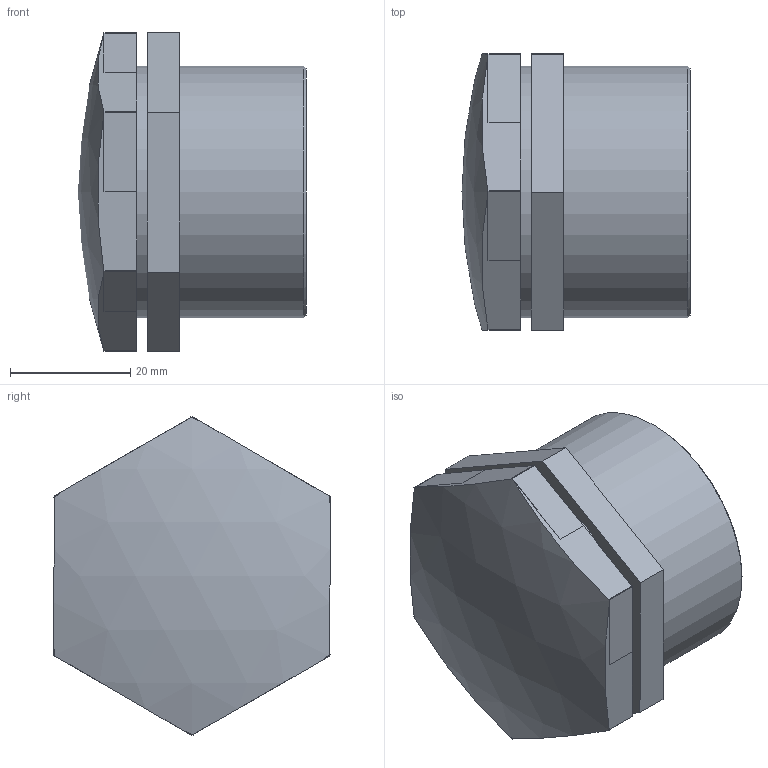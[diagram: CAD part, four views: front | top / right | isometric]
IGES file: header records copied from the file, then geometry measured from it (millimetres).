
Global section: file name: 051707013_0517070130A.ipt; native system: Autodesk Inventor 2015; preprocessor: unknown; author: Кирилл,,11,0; organization: 20170503.073136; date: 20170618.093337; units: millimetre
Bounding box: 38 x 46.19 x 53.12 mm (x, y, z)
Volume: 28323.5 mm3; surface area: 12821.6 mm2
Topology: 7 solids, 7 shells, 64 faces, 139 edges, 93 vertices
Faces by surface type: plane 52, revolution 8, cylinder 2, sphere 1, cone 1
Full cylindrical faces by diameter (mm): 41.91 x2
